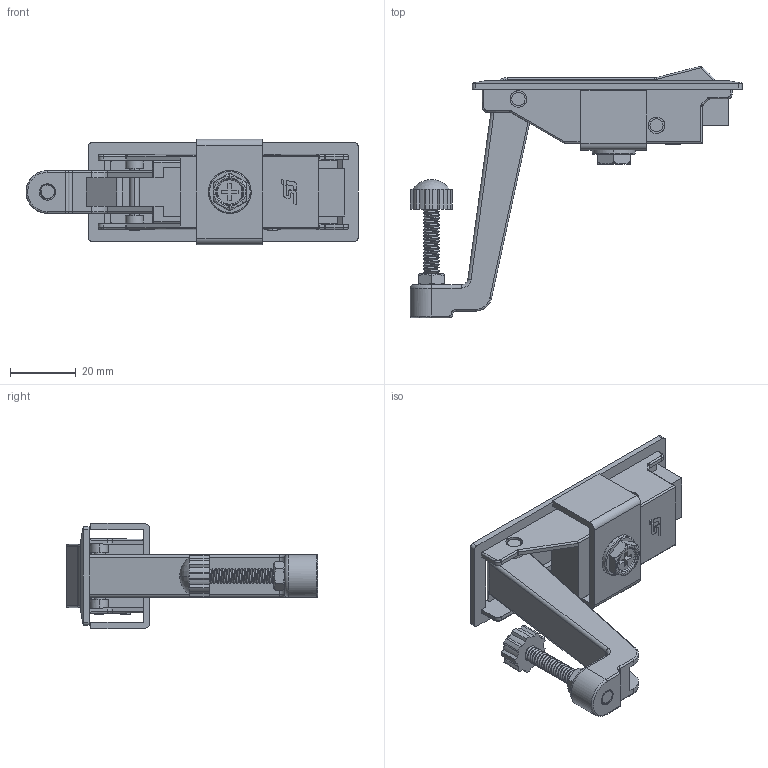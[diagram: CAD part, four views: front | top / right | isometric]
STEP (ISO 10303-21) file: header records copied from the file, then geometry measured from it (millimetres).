
FILE_DESCRIPTION (( 'STEP AP214' ), '1' );
FILE_NAME ('MS708平面锁.STEP', '2019-12-27T01:20:08', ( 'China' ), ( 'User' ), 'SwSTEP 2.0', 'SolidWorks 2018', '' );
FILE_SCHEMA (( 'AUTOMOTIVE_DESIGN' ));
Length unit declared in the file: millimetre
Products named in the file (12): ANNIU^708zhuangpei_asm(2)_708zhuangpei_asm; M5X25^TIAOJIELUODING_ASM_708zhuangpei_asm(2)_708zhuangpei_asm; SHOUBING^708zhuangpei_asm(2)_708zhuangpei_asm; MS708す醱坶; M5X10^708zhuangpei_asm(2)_708zhuangpei_asm; TIAOJIELUODING_ASM^708zhuangpei_asm(2)_708zhuangpei_asm; 708zhuangpei_asm(2)^708zhuangpei_asm; YABAN^708zhuangpei_asm(2)_708zhuangpei_asm; M5LIUJIAOLUOMU^708zhuangpei_asm(2)_708zhuangpei_asm; JIZUO^708zhuangpei_asm(2)_708zhuangpei_asm; 720XIAOZI^708zhuangpei_asm(2)_708zhuangpei_asm; SULIAOTOU^TIAOJIELUODING_ASM_708zhuangpei_asm(2)_708zhuangpei_asm
Assembly tree (12 placements, depth 4):
  MS708す醱坶
    708zhuangpei_asm(2)^708zhuangpei_asm
      TIAOJIELUODING_ASM^708zhuangpei_asm(2)_708zhuangpei_asm
        M5X25^TIAOJIELUODING_ASM_708zhuangpei_asm(2)_708zhuangpei_asm
        SULIAOTOU^TIAOJIELUODING_ASM_708zhuangpei_asm(2)_708zhuangpei_asm
      JIZUO^708zhuangpei_asm(2)_708zhuangpei_asm
      SHOUBING^708zhuangpei_asm(2)_708zhuangpei_asm
      ANNIU^708zhuangpei_asm(2)_708zhuangpei_asm
      M5LIUJIAOLUOMU^708zhuangpei_asm(2)_708zhuangpei_asm
      720XIAOZI^708zhuangpei_asm(2)_708zhuangpei_asm  x2
      YABAN^708zhuangpei_asm(2)_708zhuangpei_asm
      M5X10^708zhuangpei_asm(2)_708zhuangpei_asm
Bounding box: 100.98 x 76.47 x 32 mm (x, y, z)
Volume: 10332 mm3; surface area: 25863.4 mm2
Topology: 8 solids, 12 shells, 719 faces, 1847 edges, 1157 vertices
Faces by surface type: cylinder 341, plane 264, bspline 55, torus 35, sphere 12, cone 12
Entity records: 33502 total; most frequent: CARTESIAN_POINT 16931, ORIENTED_EDGE 3624, DIRECTION 2954, EDGE_CURVE 1816, VERTEX_POINT 1145, AXIS2_PLACEMENT_3D 1077, VECTOR 800, LINE 800
